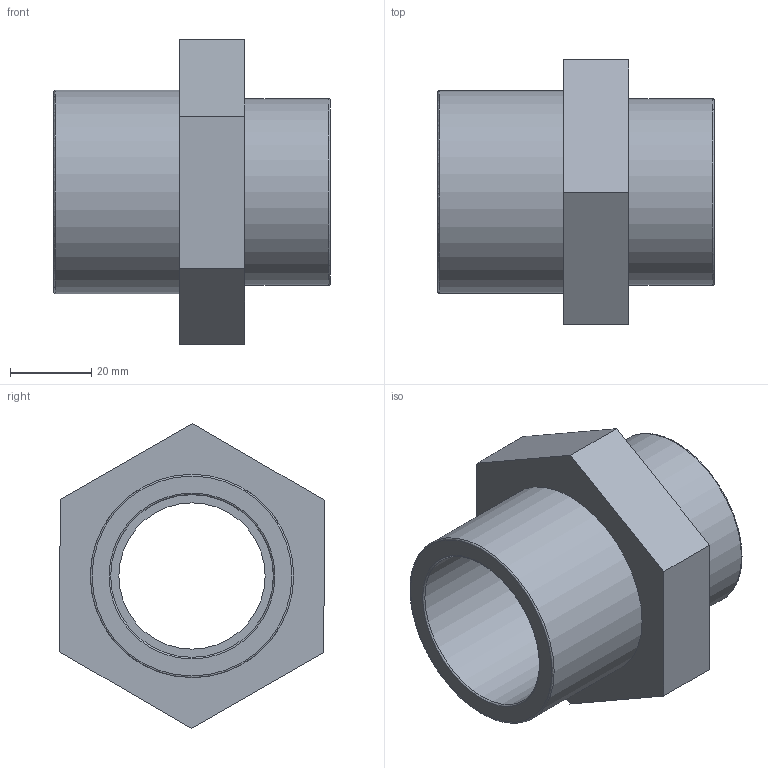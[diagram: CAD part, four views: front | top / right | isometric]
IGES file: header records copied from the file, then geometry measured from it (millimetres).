
Global section: file name: 050202050013.ipt; native system: Autodesk Inventor 2015; preprocessor: unknown; author: KIM; date: 20171207.164349; units: millimetre
Bounding box: 68 x 65.1 x 75.06 mm (x, y, z)
Volume: 71321.7 mm3; surface area: 25112.1 mm2
Topology: 1 solids, 1 shells, 21 faces, 55 edges, 40 vertices
Faces by surface type: plane 12, revolution 7, cylinder 2
Full cylindrical faces by diameter (mm): 46 x1, 50 x1
